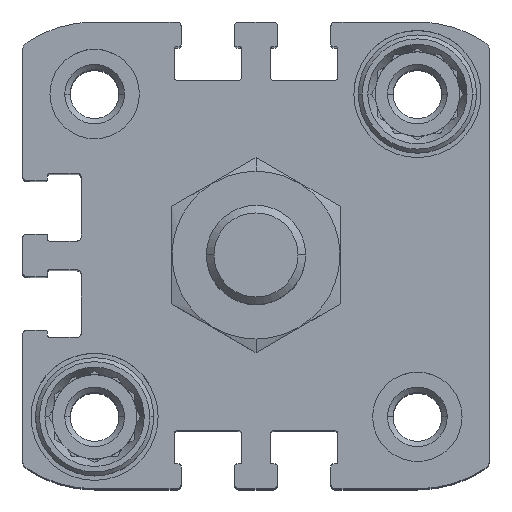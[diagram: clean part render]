
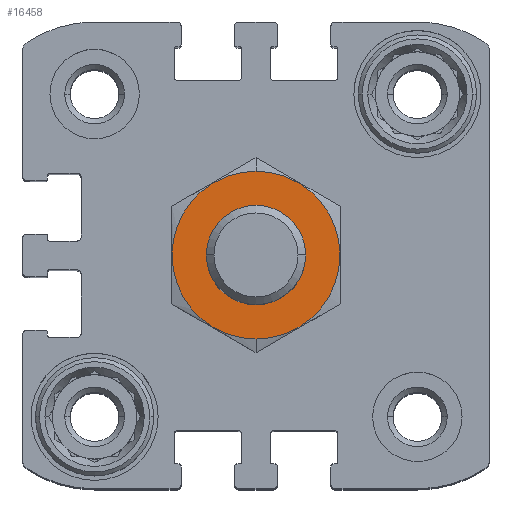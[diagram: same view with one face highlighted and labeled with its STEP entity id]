
A CAD part, top view. The second image highlights one B-rep face of the part: STEP entity #16458.
In plain terms, the highlighted planar face has unit normal (0, 0, 1).
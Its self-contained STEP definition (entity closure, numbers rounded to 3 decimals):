
#104 = ORIENTED_EDGE ( 'NONE', *, *, #2255, .F. ) ;
#130 = AXIS2_PLACEMENT_3D ( 'NONE', #1851, #2892, #1756 ) ;
#483 = VERTEX_POINT ( 'NONE', #572 ) ;
#572 = CARTESIAN_POINT ( 'NONE',  ( 0., -8.45, 15.75 ) ) ;
#847 = CIRCLE ( 'NONE', #10652, 8.45 ) ;
#1756 = DIRECTION ( 'NONE',  ( 0., 1., 0. ) ) ;
#1851 = CARTESIAN_POINT ( 'NONE',  ( 0., 0., 15.75 ) ) ;
#1859 = CARTESIAN_POINT ( 'NONE',  ( 0., 0., 15.75 ) ) ;
#1977 = ORIENTED_EDGE ( 'NONE', *, *, #3959, .T. ) ;
#2255 = EDGE_CURVE ( 'NONE', #483, #13525, #5222, .T. ) ;
#2892 = DIRECTION ( 'NONE',  ( 0., 0., -1. ) ) ;
#3836 = DIRECTION ( 'NONE',  ( 0., 1., 0. ) ) ;
#3959 = EDGE_CURVE ( 'NONE', #10558, #16059, #6280, .T. ) ;
#4416 = ORIENTED_EDGE ( 'NONE', *, *, #16620, .F. ) ;
#4449 = CARTESIAN_POINT ( 'NONE',  ( 0., 0., 15.75 ) ) ;
#4923 = DIRECTION ( 'NONE',  ( 0., 1., 0. ) ) ;
#5222 = CIRCLE ( 'NONE', #16717, 8.45 ) ;
#5987 = AXIS2_PLACEMENT_3D ( 'NONE', #1859, #8935, #3836 ) ;
#6280 = CIRCLE ( 'NONE', #130, 5. ) ;
#6688 = EDGE_CURVE ( 'NONE', #16059, #10558, #13558, .T. ) ;
#8214 = EDGE_LOOP ( 'NONE', ( #4416, #104 ) ) ;
#8554 = ORIENTED_EDGE ( 'NONE', *, *, #6688, .T. ) ;
#8935 = DIRECTION ( 'NONE',  ( 0., 0., -1. ) ) ;
#9835 = AXIS2_PLACEMENT_3D ( 'NONE', #4449, #15327, #15158 ) ;
#10141 = CARTESIAN_POINT ( 'NONE',  ( 0., 0., 15.75 ) ) ;
#10558 = VERTEX_POINT ( 'NONE', #16778 ) ;
#10618 = DIRECTION ( 'NONE',  ( 0., 0., -1. ) ) ;
#10652 = AXIS2_PLACEMENT_3D ( 'NONE', #10141, #14181, #12856 ) ;
#11301 = CARTESIAN_POINT ( 'NONE',  ( 0., 5., 15.75 ) ) ;
#12597 = FACE_BOUND ( 'NONE', #15376, .T. ) ;
#12856 = DIRECTION ( 'NONE',  ( 0., 1., 0. ) ) ;
#13525 = VERTEX_POINT ( 'NONE', #16780 ) ;
#13558 = CIRCLE ( 'NONE', #5987, 5. ) ;
#13751 = FACE_OUTER_BOUND ( 'NONE', #8214, .T. ) ;
#14181 = DIRECTION ( 'NONE',  ( 0., 0., -1. ) ) ;
#14484 = CARTESIAN_POINT ( 'NONE',  ( 0., 0., 15.75 ) ) ;
#15158 = DIRECTION ( 'NONE',  ( 0., 1., 0. ) ) ;
#15327 = DIRECTION ( 'NONE',  ( 0., 0., -1. ) ) ;
#15376 = EDGE_LOOP ( 'NONE', ( #1977, #8554 ) ) ;
#16059 = VERTEX_POINT ( 'NONE', #11301 ) ;
#16383 = PLANE ( 'NONE',  #9835 ) ;
#16458 = ADVANCED_FACE ( 'NONE', ( #13751, #12597 ), #16383, .F. ) ;
#16620 = EDGE_CURVE ( 'NONE', #13525, #483, #847, .T. ) ;
#16717 = AXIS2_PLACEMENT_3D ( 'NONE', #14484, #10618, #4923 ) ;
#16778 = CARTESIAN_POINT ( 'NONE',  ( 0., -5., 15.75 ) ) ;
#16780 = CARTESIAN_POINT ( 'NONE',  ( 0., 8.45, 15.75 ) ) ;
